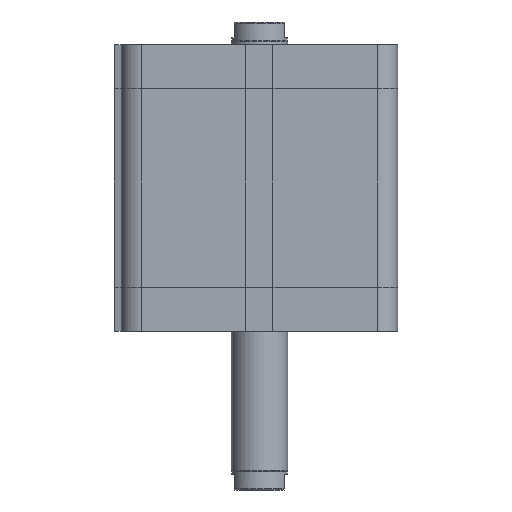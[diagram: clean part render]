
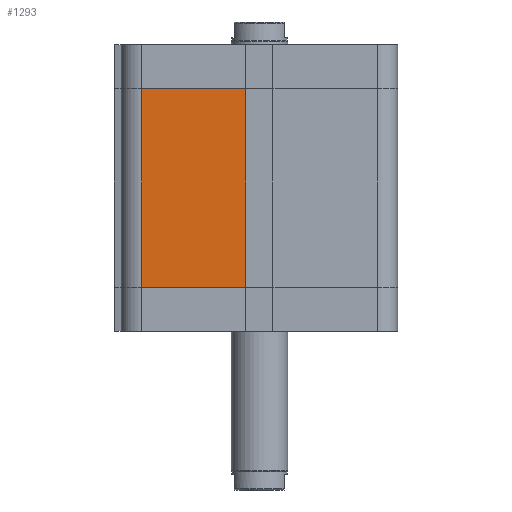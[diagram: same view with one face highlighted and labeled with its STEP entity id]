
A CAD part, left-side view. The second image highlights one B-rep face of the part: STEP entity #1293.
In plain terms, the highlighted planar face has unit normal (-1, 0, 0).
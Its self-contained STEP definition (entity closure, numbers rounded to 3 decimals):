
#1204=CARTESIAN_POINT('',(-61.0,52.,19.5));
#1205=VERTEX_POINT('',#1204);
#1213=CARTESIAN_POINT('',(-61.0,52.,107.0));
#1214=VERTEX_POINT('',#1213);
#1215=CARTESIAN_POINT('',(-61.0,52.,19.5));
#1216=DIRECTION('',(0.0,0.0,1.0));
#1217=VECTOR('',#1216,87.5);
#1218=LINE('',#1215,#1217);
#1219=EDGE_CURVE('',#1205,#1214,#1218,.T.);
#1263=CARTESIAN_POINT('',(-61.,6.,0.0));
#1264=DIRECTION('',(-1.0,0.0,0.0));
#1265=DIRECTION('',(0.0,0.0,1.0));
#1266=AXIS2_PLACEMENT_3D('',#1263,#1264,#1265);
#1267=PLANE('',#1266);
#1268=CARTESIAN_POINT('',(-61.,6.,19.5));
#1269=VERTEX_POINT('',#1268);
#1270=CARTESIAN_POINT('',(-61.0,52.,19.5));
#1271=DIRECTION('',(0.0,-1.0,0.0));
#1272=VECTOR('',#1271,46.);
#1273=LINE('',#1270,#1272);
#1274=EDGE_CURVE('',#1205,#1269,#1273,.T.);
#1275=ORIENTED_EDGE('',*,*,#1274,.T.);
#1276=CARTESIAN_POINT('',(-61.,6.,107.0));
#1277=VERTEX_POINT('',#1276);
#1278=CARTESIAN_POINT('',(-61.,6.,19.5));
#1279=DIRECTION('',(0.0,0.0,1.0));
#1280=VECTOR('',#1279,87.5);
#1281=LINE('',#1278,#1280);
#1282=EDGE_CURVE('',#1269,#1277,#1281,.T.);
#1283=ORIENTED_EDGE('',*,*,#1282,.T.);
#1284=CARTESIAN_POINT('',(-61.0,52.,107.0));
#1285=DIRECTION('',(0.0,-1.0,0.0));
#1286=VECTOR('',#1285,46.);
#1287=LINE('',#1284,#1286);
#1288=EDGE_CURVE('',#1214,#1277,#1287,.T.);
#1289=ORIENTED_EDGE('',*,*,#1288,.F.);
#1290=ORIENTED_EDGE('',*,*,#1219,.F.);
#1291=EDGE_LOOP('',(#1275,#1283,#1289,#1290));
#1292=FACE_OUTER_BOUND('',#1291,.T.);
#1293=ADVANCED_FACE('',(#1292),#1267,.T.);
